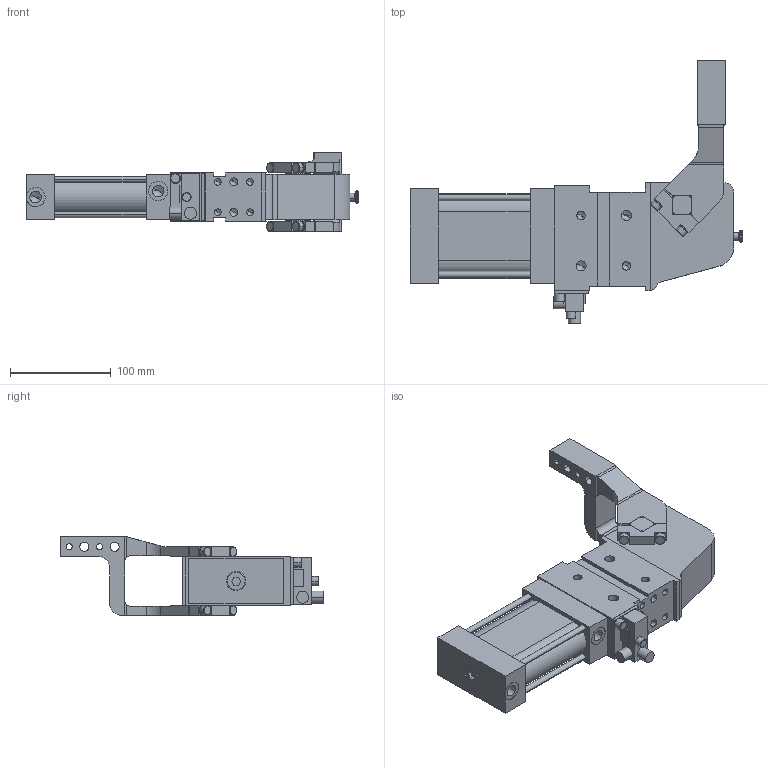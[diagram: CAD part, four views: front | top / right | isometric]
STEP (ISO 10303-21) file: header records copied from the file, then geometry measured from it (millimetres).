
FILE_DESCRIPTION (( 'STEP AP214' ), '1' );
FILE_NAME ('AKUHV50-L01W12.STEP', '2026-07-07T17:30:46', ( '' ), ( '' ), 'SwSTEP 2.0', 'SolidWorks 2019', '' );
FILE_SCHEMA (( 'AUTOMOTIVE_DESIGN' ));
Length unit declared in the file: millimetre
Products named in the file (3): AKUHV50-L01W12; AKUHV50-Z00W12; 50-L01
Assembly tree (2 placements, depth 2):
  AKUHV50-L01W12
    AKUHV50-Z00W12
    50-L01
Bounding box: 329 x 261.42 x 78 mm (x, y, z)
Volume: 1401439.8 mm3; surface area: 157284.9 mm2
Topology: 2 solids, 7 shells, 430 faces, 1069 edges, 645 vertices
Faces by surface type: plane 182, cylinder 148, cone 80, torus 20
Entity records: 12694 total; most frequent: CARTESIAN_POINT 2418, DIRECTION 2209, ORIENTED_EDGE 2030, EDGE_CURVE 1015, AXIS2_PLACEMENT_3D 811, VERTEX_POINT 645, LINE 587, VECTOR 587
